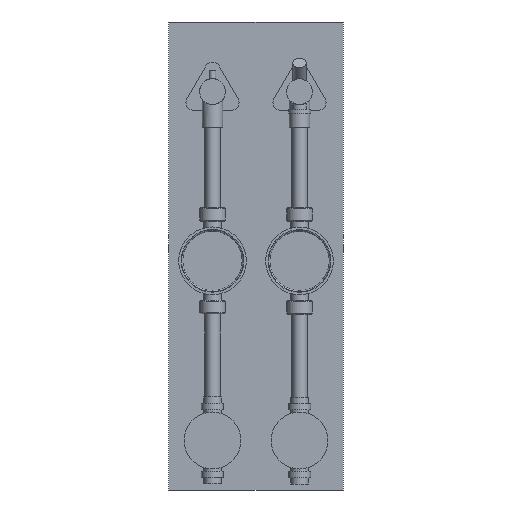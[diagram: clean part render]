
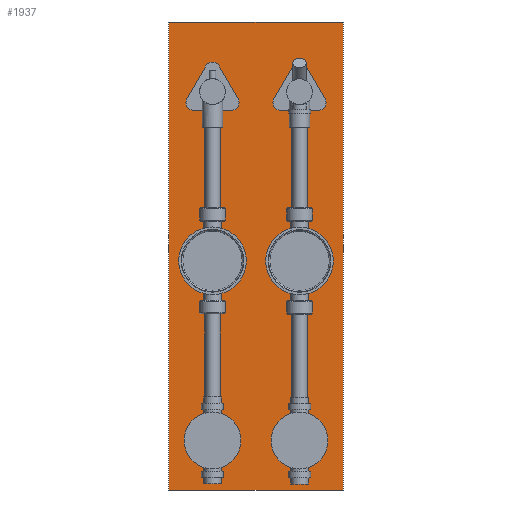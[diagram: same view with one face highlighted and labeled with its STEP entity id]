
A CAD part, front view. The second image highlights one B-rep face of the part: STEP entity #1937.
In plain terms, the highlighted planar face has unit normal (0, -1, 0).
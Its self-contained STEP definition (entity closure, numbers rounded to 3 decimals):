
#1937=ADVANCED_FACE('',(#2861),#2862,.T.);
#2861=FACE_OUTER_BOUND('',#3495,.T.);
#2862=PLANE('',#3496);
#3495=EDGE_LOOP('',(#4598,#4599,#4600,#4601));
#3496=AXIS2_PLACEMENT_3D('',#4602,#4603,#4604);
#4598=ORIENTED_EDGE('',*,*,#5264,.T.);
#4599=ORIENTED_EDGE('',*,*,#5265,.T.);
#4600=ORIENTED_EDGE('',*,*,#5262,.F.);
#4601=ORIENTED_EDGE('',*,*,#5266,.T.);
#4602=CARTESIAN_POINT('',(90.0,0.0,242.0));
#4603=DIRECTION('',(0.0,-1.0,0.0));
#4604=DIRECTION('',(0.0,0.0,-1.0));
#5262=EDGE_CURVE('',#5993,#5995,#5996,.T.);
#5264=EDGE_CURVE('',#5998,#5999,#6000,.T.);
#5265=EDGE_CURVE('',#5999,#5995,#6001,.T.);
#5266=EDGE_CURVE('',#5993,#5998,#6002,.T.);
#5993=VERTEX_POINT('',#7225);
#5995=VERTEX_POINT('',#7228);
#5996=LINE('',#7229,#7230);
#5998=VERTEX_POINT('',#7233);
#5999=VERTEX_POINT('',#7234);
#6000=LINE('',#7235,#7236);
#6001=LINE('',#7237,#7238);
#6002=LINE('',#7239,#7240);
#7225=CARTESIAN_POINT('',(90.0,0.0,-242.0));
#7228=CARTESIAN_POINT('',(-90.0,0.0,-242.0));
#7229=CARTESIAN_POINT('',(90.0,0.0,-242.0));
#7230=VECTOR('',#7867,1.0);
#7233=CARTESIAN_POINT('',(90.0,0.0,242.0));
#7234=CARTESIAN_POINT('',(-90.0,0.0,242.0));
#7235=CARTESIAN_POINT('',(90.0,0.0,242.0));
#7236=VECTOR('',#7869,1.0);
#7237=CARTESIAN_POINT('',(-90.0,0.0,242.0));
#7238=VECTOR('',#7870,1.0);
#7239=CARTESIAN_POINT('',(90.0,0.0,-242.0));
#7240=VECTOR('',#7871,1.0);
#7867=DIRECTION('',(-1.0,0.0,0.0));
#7869=DIRECTION('',(-1.0,0.0,0.0));
#7870=DIRECTION('',(0.0,0.0,-1.0));
#7871=DIRECTION('',(0.0,0.0,1.0));
